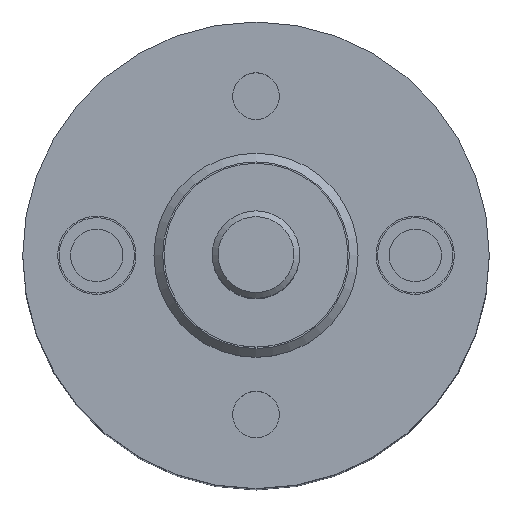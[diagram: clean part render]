
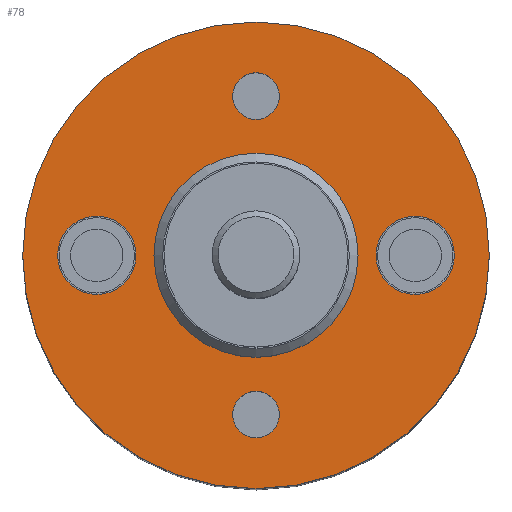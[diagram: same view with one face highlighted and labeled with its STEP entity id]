
A CAD part, top view. The second image highlights one B-rep face of the part: STEP entity #78.
In plain terms, the highlighted planar face has unit normal (0, 0, 1).
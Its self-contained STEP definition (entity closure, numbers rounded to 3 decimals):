
#55=PLANE('',#503);
#78=ADVANCED_FACE('',(#139,#140,#141,#142,#143,#144),#55,.T.);
#139=FACE_BOUND('',#208,.T.);
#140=FACE_BOUND('',#209,.T.);
#141=FACE_BOUND('',#210,.T.);
#142=FACE_BOUND('',#211,.T.);
#143=FACE_BOUND('',#212,.T.);
#144=FACE_BOUND('',#213,.T.);
#208=EDGE_LOOP('',(#286));
#209=EDGE_LOOP('',(#287));
#210=EDGE_LOOP('',(#288));
#211=EDGE_LOOP('',(#289));
#212=EDGE_LOOP('',(#290));
#213=EDGE_LOOP('',(#291));
#286=ORIENTED_EDGE('',*,*,#413,.F.);
#287=ORIENTED_EDGE('',*,*,#414,.F.);
#288=ORIENTED_EDGE('',*,*,#415,.T.);
#289=ORIENTED_EDGE('',*,*,#416,.T.);
#290=ORIENTED_EDGE('',*,*,#412,.T.);
#291=ORIENTED_EDGE('',*,*,#407,.F.);
#366=VERTEX_POINT('',#738);
#371=VERTEX_POINT('',#750);
#372=VERTEX_POINT('',#753);
#373=VERTEX_POINT('',#755);
#374=VERTEX_POINT('',#757);
#375=VERTEX_POINT('',#759);
#407=EDGE_CURVE('',#366,#366,#450,.T.);
#412=EDGE_CURVE('',#371,#371,#455,.T.);
#413=EDGE_CURVE('',#372,#372,#456,.T.);
#414=EDGE_CURVE('',#373,#373,#457,.T.);
#415=EDGE_CURVE('',#374,#374,#458,.T.);
#416=EDGE_CURVE('',#375,#375,#459,.T.);
#450=CIRCLE('',#490,8.);
#455=CIRCLE('',#497,3.5);
#456=CIRCLE('',#499,1.342);
#457=CIRCLE('',#500,1.342);
#458=CIRCLE('',#501,0.8);
#459=CIRCLE('',#502,0.8);
#490=AXIS2_PLACEMENT_3D('',#737,#572,#573);
#497=AXIS2_PLACEMENT_3D('',#749,#586,#587);
#499=AXIS2_PLACEMENT_3D('',#752,#590,#591);
#500=AXIS2_PLACEMENT_3D('',#754,#592,#593);
#501=AXIS2_PLACEMENT_3D('',#756,#594,#595);
#502=AXIS2_PLACEMENT_3D('',#758,#596,#597);
#503=AXIS2_PLACEMENT_3D('',#760,#598,#599);
#572=DIRECTION('',(0.,0.,-1.));
#573=DIRECTION('',(-1.,0.,0.));
#586=DIRECTION('',(0.,0.,-1.));
#587=DIRECTION('',(1.,0.,0.));
#590=DIRECTION('',(0.,0.,1.));
#591=DIRECTION('',(-1.,0.,0.));
#592=DIRECTION('',(0.,0.,1.));
#593=DIRECTION('',(1.,0.,0.));
#594=DIRECTION('',(0.,0.,-1.));
#595=DIRECTION('',(1.,0.,0.));
#596=DIRECTION('',(0.,0.,-1.));
#597=DIRECTION('',(-1.,0.,0.));
#598=DIRECTION('',(0.,0.,1.));
#599=DIRECTION('',(1.,0.,0.));
#737=CARTESIAN_POINT('',(0.,0.,0.));
#738=CARTESIAN_POINT('',(-8.,0.,0.));
#749=CARTESIAN_POINT('',(0.,0.,0.));
#750=CARTESIAN_POINT('',(3.5,0.,0.));
#752=CARTESIAN_POINT('',(5.46,0.,0.));
#753=CARTESIAN_POINT('',(4.118,0.,0.));
#754=CARTESIAN_POINT('',(-5.46,0.,0.));
#755=CARTESIAN_POINT('',(-4.118,0.,0.));
#756=CARTESIAN_POINT('',(0.,-5.46,0.));
#757=CARTESIAN_POINT('',(0.8,-5.46,0.));
#758=CARTESIAN_POINT('',(0.,5.46,0.));
#759=CARTESIAN_POINT('',(-0.8,5.46,0.));
#760=CARTESIAN_POINT('',(0.,0.,0.));
